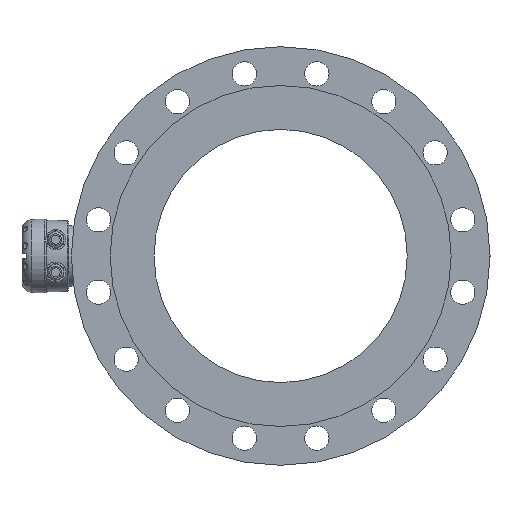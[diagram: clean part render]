
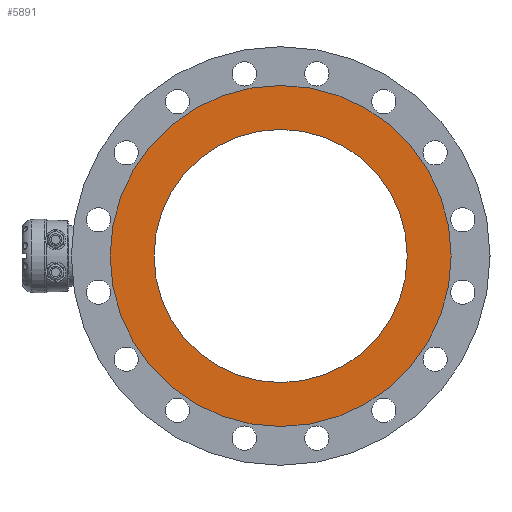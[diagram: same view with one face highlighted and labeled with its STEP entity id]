
A CAD part, left-side view. The second image highlights one B-rep face of the part: STEP entity #5891.
In plain terms, the highlighted planar face has unit normal (-1, 0, 0).
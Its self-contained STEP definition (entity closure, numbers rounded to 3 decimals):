
#716 = FACE_OUTER_BOUND ( 'NONE', #13353, .T. ) ;
#717 = FACE_BOUND ( 'NONE', #13320, .T. ) ;
#1262 = EDGE_CURVE ( 'NONE', #1377, #1377, #4215, .T. ) ;
#1268 = EDGE_CURVE ( 'NONE', #1385, #1385, #4224, .T. ) ;
#1377 = VERTEX_POINT ( 'NONE', #1378 ) ;
#1378 = CARTESIAN_POINT ( 'NONE',  ( -392.805, -283.517, -198.043 ) ) ;
#1385 = VERTEX_POINT ( 'NONE', #1386 ) ;
#1386 = CARTESIAN_POINT ( 'NONE',  ( -392.805, -283.517, 241.957 ) ) ;
#1932 = DIRECTION ( 'NONE',  ( 0., 0., 1. ) ) ;
#1933 = DIRECTION ( 'NONE',  ( -1., 0., 0. ) ) ;
#1934 = CARTESIAN_POINT ( 'NONE',  ( -392.805, -283.517, -10.543 ) ) ;
#4215 = CIRCLE ( 'NONE', #13631, 187.5 ) ;
#4224 = CIRCLE ( 'NONE', #13636, 252.5 ) ;
#4449 = CARTESIAN_POINT ( 'NONE',  ( -392.805, -283.517, -10.543 ) ) ;
#4451 = DIRECTION ( 'NONE',  ( 1., 0., 0. ) ) ;
#4452 = DIRECTION ( 'NONE',  ( 0., 0., -1. ) ) ;
#4951 = PLANE ( 'NONE',  #13886 ) ;
#5003 = CARTESIAN_POINT ( 'NONE',  ( -392.805, -96.017, -10.543 ) ) ;
#5012 = DIRECTION ( 'NONE',  ( -1., 0., 0. ) ) ;
#5013 = DIRECTION ( 'NONE',  ( 0., 0., 1. ) ) ;
#5891 = ADVANCED_FACE ( 'NONE', ( #717, #716 ), #4951, .T. ) ;
#13113 = ORIENTED_EDGE ( 'NONE', *, *, #1262, .T. ) ;
#13114 = ORIENTED_EDGE ( 'NONE', *, *, #1268, .T. ) ;
#13320 = EDGE_LOOP ( 'NONE', ( #13113 ) ) ;
#13353 = EDGE_LOOP ( 'NONE', ( #13114 ) ) ;
#13631 = AXIS2_PLACEMENT_3D ( 'NONE', #4449, #4451, #4452 ) ;
#13636 = AXIS2_PLACEMENT_3D ( 'NONE', #1934, #1933, #1932 ) ;
#13886 = AXIS2_PLACEMENT_3D ( 'NONE', #5003, #5012, #5013 ) ;
